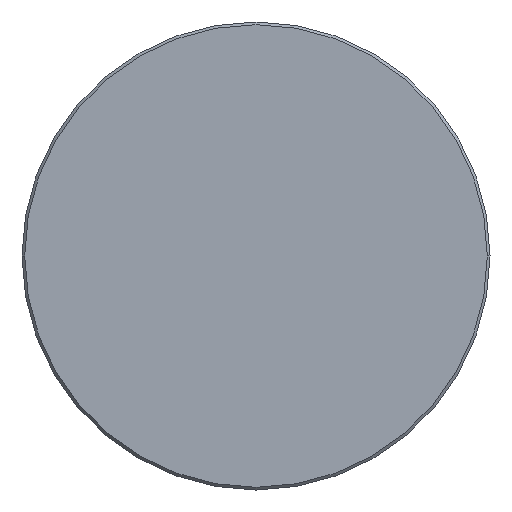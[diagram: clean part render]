
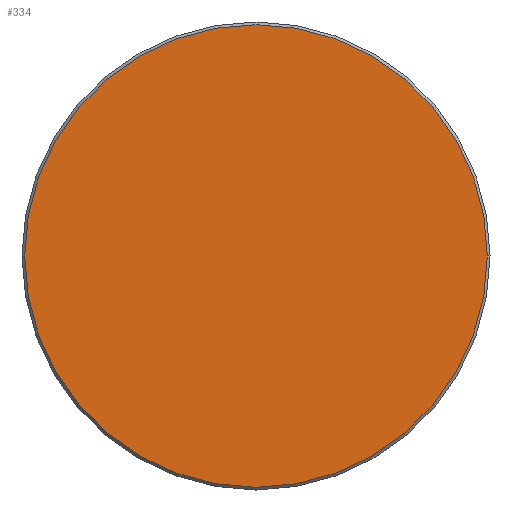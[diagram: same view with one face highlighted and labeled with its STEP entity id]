
A CAD part, left-side view. The second image highlights one B-rep face of the part: STEP entity #334.
In plain terms, the highlighted planar face has unit normal (-1, 0, 0).
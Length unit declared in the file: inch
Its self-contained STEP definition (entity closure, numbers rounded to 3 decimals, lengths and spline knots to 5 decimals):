
#34 = EDGE_CURVE ( 'NONE', #152, #92, #180, .T. ) ;
#62 = DIRECTION ( 'NONE',  ( 0., -1., 0. ) ) ;
#63 = CARTESIAN_POINT ( 'NONE',  ( 0., 0., 0. ) ) ;
#71 = PLANE ( 'NONE',  #144 ) ;
#81 = CARTESIAN_POINT ( 'NONE',  ( 0., 0., 0. ) ) ;
#92 = VERTEX_POINT ( 'NONE', #231 ) ;
#118 = DIRECTION ( 'NONE',  ( -1., 0., 0. ) ) ;
#121 = ORIENTED_EDGE ( 'NONE', *, *, #179, .T. ) ;
#134 = AXIS2_PLACEMENT_3D ( 'NONE', #63, #118, #62 ) ;
#144 = AXIS2_PLACEMENT_3D ( 'NONE', #313, #182, #340 ) ;
#149 = CARTESIAN_POINT ( 'NONE',  ( 0., -0.33975, 0. ) ) ;
#152 = VERTEX_POINT ( 'NONE', #149 ) ;
#165 = DIRECTION ( 'NONE',  ( -1., 0., 0. ) ) ;
#166 = CIRCLE ( 'NONE', #134, 0.33975 ) ;
#175 = AXIS2_PLACEMENT_3D ( 'NONE', #81, #165, #268 ) ;
#179 = EDGE_CURVE ( 'NONE', #92, #152, #166, .T. ) ;
#180 = CIRCLE ( 'NONE', #175, 0.33975 ) ;
#182 = DIRECTION ( 'NONE',  ( -1., 0., 0. ) ) ;
#231 = CARTESIAN_POINT ( 'NONE',  ( 0., 0.33975, 0. ) ) ;
#268 = DIRECTION ( 'NONE',  ( 0., -1., 0. ) ) ;
#283 = FACE_OUTER_BOUND ( 'NONE', #288, .T. ) ;
#288 = EDGE_LOOP ( 'NONE', ( #121, #359 ) ) ;
#313 = CARTESIAN_POINT ( 'NONE',  ( 0., 0., 0. ) ) ;
#334 = ADVANCED_FACE ( 'NONE', ( #283 ), #71, .T. ) ;
#340 = DIRECTION ( 'NONE',  ( 0., -1., 0. ) ) ;
#359 = ORIENTED_EDGE ( 'NONE', *, *, #34, .T. ) ;
